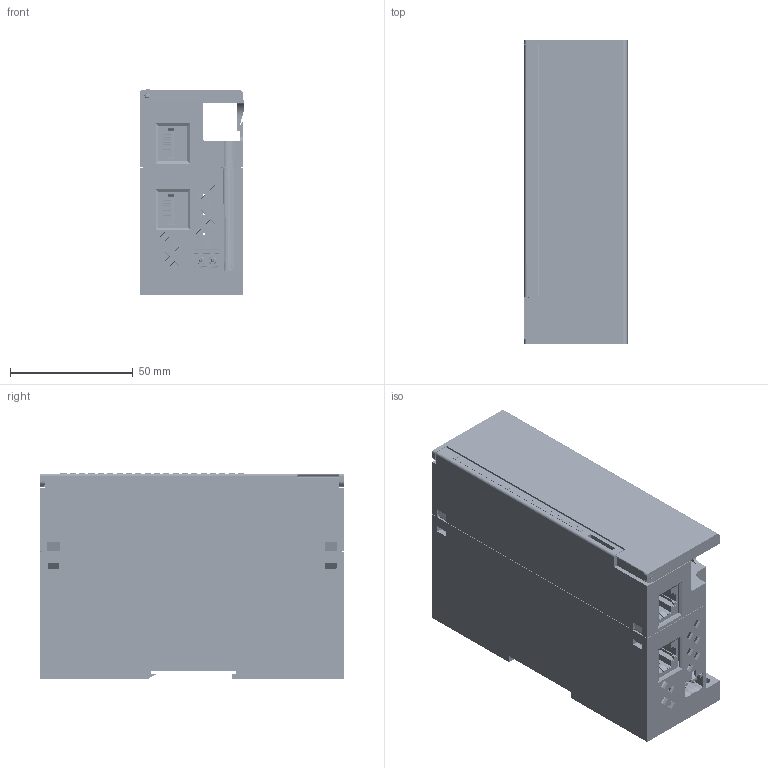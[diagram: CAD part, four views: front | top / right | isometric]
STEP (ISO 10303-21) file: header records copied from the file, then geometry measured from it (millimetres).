
FILE_DESCRIPTION (( 'STEP AP214' ), '1' );
FILE_NAME ('3D 斁麧錪 斨210-202.STEP', '2018-03-05T09:29:16', ( '' ), ( '' ), 'SwSTEP 2.0', 'SolidWorks 2015', '' );
FILE_SCHEMA (( 'AUTOMOTIVE_DESIGN' ));
Length unit declared in the file: millimetre
Products named in the file (1): 3D 斁麧錪 斨210-202
Bounding box: 42.15 x 124.15 x 83.6 mm (x, y, z)
Surface area: 182556.7 mm2 (no closed solid volume)
Topology: 0 solids, 246 shells, 15523 faces, 43717 edges, 28750 vertices
Faces by surface type: plane 12090, cylinder 2470, bspline 485, cone 426, torus 48, sphere 4
Entity records: 735685 total; most frequent: CARTESIAN_POINT 164427, ORIENTED_EDGE 87254, DIRECTION 75518, EDGE_CURVE 43657, LINE 35264, VECTOR 35264, VERTEX_POINT 28755, AXIS2_PLACEMENT_3D 20127
